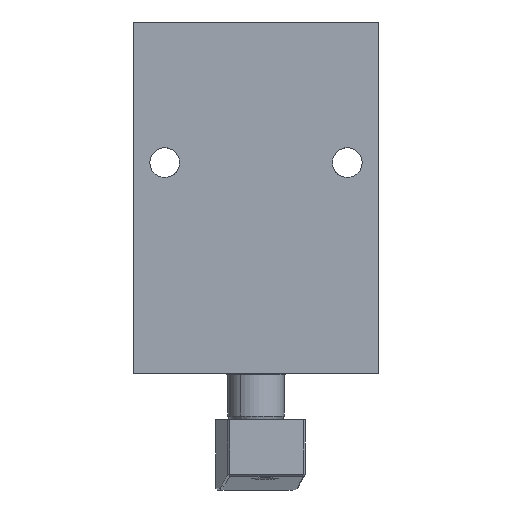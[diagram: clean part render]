
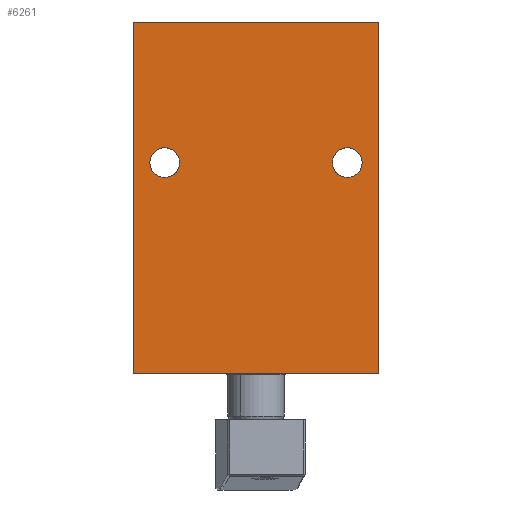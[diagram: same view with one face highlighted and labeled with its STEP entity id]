
A CAD part, front view. The second image highlights one B-rep face of the part: STEP entity #6261.
In plain terms, the highlighted planar face has unit normal (0, -1, 0).
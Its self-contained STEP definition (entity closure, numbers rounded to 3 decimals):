
#307 = AXIS2_PLACEMENT_3D ( 'NONE', #5037, #6316, #7742 ) ;
#671 = AXIS2_PLACEMENT_3D ( 'NONE', #12947, #4189, #4143 ) ;
#901 = LINE ( 'NONE', #7474, #13510 ) ;
#932 = CARTESIAN_POINT ( 'NONE',  ( 0., 0., 100. ) ) ;
#1656 = VERTEX_POINT ( 'NONE', #6043 ) ;
#1858 = EDGE_CURVE ( 'NONE', #4848, #9333, #8667, .T. ) ;
#2079 = PLANE ( 'NONE',  #6121 ) ;
#2322 = ORIENTED_EDGE ( 'NONE', *, *, #3403, .T. ) ;
#2443 = ORIENTED_EDGE ( 'NONE', *, *, #6799, .F. ) ;
#2690 = CARTESIAN_POINT ( 'NONE',  ( 9., 0., 60. ) ) ;
#2700 = LINE ( 'NONE', #12393, #5035 ) ;
#3068 = EDGE_LOOP ( 'NONE', ( #6463, #7838, #2443, #2322 ) ) ;
#3253 = EDGE_CURVE ( 'NONE', #8569, #1656, #11571, .T. ) ;
#3334 = ORIENTED_EDGE ( 'NONE', *, *, #1858, .T. ) ;
#3345 = DIRECTION ( 'NONE',  ( 0., 1., 0. ) ) ;
#3403 = EDGE_CURVE ( 'NONE', #4814, #10898, #901, .T. ) ;
#4055 = DIRECTION ( 'NONE',  ( 0., 0., 1. ) ) ;
#4143 = DIRECTION ( 'NONE',  ( 0., 0., 1. ) ) ;
#4189 = DIRECTION ( 'NONE',  ( 0., 1., 0. ) ) ;
#4429 = DIRECTION ( 'NONE',  ( 1., 0., 0. ) ) ;
#4467 = CIRCLE ( 'NONE', #6142, 4.25 ) ;
#4814 = VERTEX_POINT ( 'NONE', #11950 ) ;
#4848 = VERTEX_POINT ( 'NONE', #6983 ) ;
#4936 = DIRECTION ( 'NONE',  ( 1., 0., 0. ) ) ;
#5035 = VECTOR ( 'NONE', #9907, 1000. ) ;
#5037 = CARTESIAN_POINT ( 'NONE',  ( 61., 0., 60. ) ) ;
#5643 = CARTESIAN_POINT ( 'NONE',  ( 0., 0., 100. ) ) ;
#6043 = CARTESIAN_POINT ( 'NONE',  ( 9., 0., 64.25 ) ) ;
#6121 = AXIS2_PLACEMENT_3D ( 'NONE', #5643, #3345, #7128 ) ;
#6142 = AXIS2_PLACEMENT_3D ( 'NONE', #11242, #10057, #8869 ) ;
#6147 = DIRECTION ( 'NONE',  ( 0., 0., -1. ) ) ;
#6261 = ADVANCED_FACE ( 'NONE', ( #9214, #12149, #8807 ), #2079, .F. ) ;
#6314 = VERTEX_POINT ( 'NONE', #9665 ) ;
#6316 = DIRECTION ( 'NONE',  ( 0., 1., 0. ) ) ;
#6463 = ORIENTED_EDGE ( 'NONE', *, *, #7727, .T. ) ;
#6591 = ORIENTED_EDGE ( 'NONE', *, *, #16180, .T. ) ;
#6799 = EDGE_CURVE ( 'NONE', #4814, #13174, #11359, .T. ) ;
#6832 = EDGE_CURVE ( 'NONE', #13174, #6314, #2700, .T. ) ;
#6858 = CARTESIAN_POINT ( 'NONE',  ( 0., 0., 0. ) ) ;
#6983 = CARTESIAN_POINT ( 'NONE',  ( 61., 0., 64.25 ) ) ;
#7128 = DIRECTION ( 'NONE',  ( 0., 0., 1. ) ) ;
#7474 = CARTESIAN_POINT ( 'NONE',  ( 0., 0., 100. ) ) ;
#7616 = CARTESIAN_POINT ( 'NONE',  ( 0., 0., 0. ) ) ;
#7727 = EDGE_CURVE ( 'NONE', #10898, #6314, #11711, .T. ) ;
#7742 = DIRECTION ( 'NONE',  ( 0., 0., 1. ) ) ;
#7752 = CIRCLE ( 'NONE', #11975, 4.25 ) ;
#7838 = ORIENTED_EDGE ( 'NONE', *, *, #6832, .F. ) ;
#8363 = CARTESIAN_POINT ( 'NONE',  ( 61., 0., 55.75 ) ) ;
#8569 = VERTEX_POINT ( 'NONE', #11617 ) ;
#8667 = CIRCLE ( 'NONE', #307, 4.25 ) ;
#8807 = FACE_OUTER_BOUND ( 'NONE', #3068, .T. ) ;
#8869 = DIRECTION ( 'NONE',  ( 0., 0., 1. ) ) ;
#9214 = FACE_BOUND ( 'NONE', #9983, .T. ) ;
#9333 = VERTEX_POINT ( 'NONE', #8363 ) ;
#9665 = CARTESIAN_POINT ( 'NONE',  ( 70., 0., 0. ) ) ;
#9907 = DIRECTION ( 'NONE',  ( 0., 0., -1. ) ) ;
#9983 = EDGE_LOOP ( 'NONE', ( #3334, #6591 ) ) ;
#10057 = DIRECTION ( 'NONE',  ( 0., 1., 0. ) ) ;
#10898 = VERTEX_POINT ( 'NONE', #7616 ) ;
#10960 = VECTOR ( 'NONE', #4936, 1000. ) ;
#11240 = ORIENTED_EDGE ( 'NONE', *, *, #3253, .T. ) ;
#11242 = CARTESIAN_POINT ( 'NONE',  ( 61., 0., 60. ) ) ;
#11359 = LINE ( 'NONE', #932, #10960 ) ;
#11571 = CIRCLE ( 'NONE', #671, 4.25 ) ;
#11617 = CARTESIAN_POINT ( 'NONE',  ( 9., 0., 55.75 ) ) ;
#11711 = LINE ( 'NONE', #6858, #15229 ) ;
#11950 = CARTESIAN_POINT ( 'NONE',  ( 0., 0., 100. ) ) ;
#11975 = AXIS2_PLACEMENT_3D ( 'NONE', #2690, #12802, #4055 ) ;
#12149 = FACE_BOUND ( 'NONE', #14087, .T. ) ;
#12393 = CARTESIAN_POINT ( 'NONE',  ( 70., 0., 100. ) ) ;
#12761 = EDGE_CURVE ( 'NONE', #1656, #8569, #7752, .T. ) ;
#12802 = DIRECTION ( 'NONE',  ( 0., 1., 0. ) ) ;
#12947 = CARTESIAN_POINT ( 'NONE',  ( 9., 0., 60. ) ) ;
#13174 = VERTEX_POINT ( 'NONE', #13754 ) ;
#13510 = VECTOR ( 'NONE', #6147, 1000. ) ;
#13754 = CARTESIAN_POINT ( 'NONE',  ( 70., 0., 100. ) ) ;
#14087 = EDGE_LOOP ( 'NONE', ( #14800, #11240 ) ) ;
#14800 = ORIENTED_EDGE ( 'NONE', *, *, #12761, .T. ) ;
#15229 = VECTOR ( 'NONE', #4429, 1000. ) ;
#16180 = EDGE_CURVE ( 'NONE', #9333, #4848, #4467, .T. ) ;
